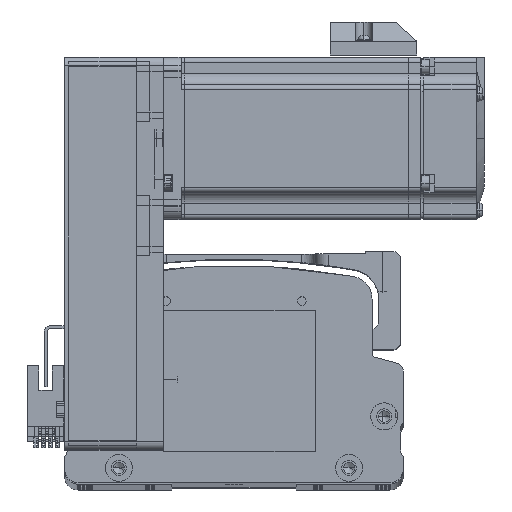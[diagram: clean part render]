
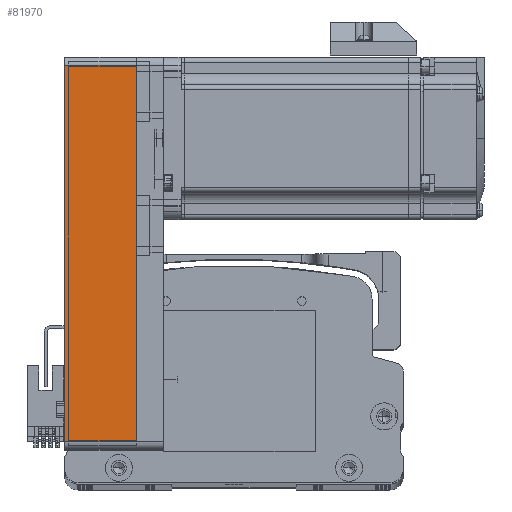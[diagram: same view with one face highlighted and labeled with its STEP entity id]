
A CAD part, top view. The second image highlights one B-rep face of the part: STEP entity #81970.
In plain terms, the highlighted planar face has unit normal (0, 0, 1) as drawn and (0, -1, 0) by its records, which use the part's own axes.
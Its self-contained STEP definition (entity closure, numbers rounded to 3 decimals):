
#1263 = AXIS2_PLACEMENT_3D ( 'NONE', #29959, #76206, #36614 ) ;
#4739 = ORIENTED_EDGE ( 'NONE', *, *, #52510, .T. ) ;
#4900 = VECTOR ( 'NONE', #33796, 1000. ) ;
#5481 = VERTEX_POINT ( 'NONE', #39003 ) ;
#8001 = DIRECTION ( 'NONE',  ( 1., 0., 0. ) ) ;
#10521 = CARTESIAN_POINT ( 'NONE',  ( 69.5, -30., 26.5 ) ) ;
#11372 = EDGE_LOOP ( 'NONE', ( #51397, #4739, #30117, #62168 ) ) ;
#12439 = LINE ( 'NONE', #64166, #80724 ) ;
#14379 = VERTEX_POINT ( 'NONE', #54191 ) ;
#16881 = VECTOR ( 'NONE', #67856, 1000. ) ;
#18940 = VERTEX_POINT ( 'NONE', #10521 ) ;
#20783 = CARTESIAN_POINT ( 'NONE',  ( 72.5, -30., 26.5 ) ) ;
#21589 = CARTESIAN_POINT ( 'NONE',  ( -69.5, -30., 26.5 ) ) ;
#29959 = CARTESIAN_POINT ( 'NONE',  ( 72.5, -30., 26.5 ) ) ;
#30117 = ORIENTED_EDGE ( 'NONE', *, *, #52741, .F. ) ;
#33796 = DIRECTION ( 'NONE',  ( 1., 0., 0. ) ) ;
#36331 = PLANE ( 'NONE',  #1263 ) ;
#36614 = DIRECTION ( 'NONE',  ( -1., 0., 0. ) ) ;
#37858 = DIRECTION ( 'NONE',  ( 0., 0., 1. ) ) ;
#39003 = CARTESIAN_POINT ( 'NONE',  ( -69.5, -30., 0. ) ) ;
#40968 = CARTESIAN_POINT ( 'NONE',  ( 72.5, -30., 0. ) ) ;
#44046 = FACE_OUTER_BOUND ( 'NONE', #11372, .T. ) ;
#49978 = LINE ( 'NONE', #21589, #16881 ) ;
#51397 = ORIENTED_EDGE ( 'NONE', *, *, #75634, .T. ) ;
#52510 = EDGE_CURVE ( 'NONE', #64766, #18940, #12439, .T. ) ;
#52741 = EDGE_CURVE ( 'NONE', #14379, #18940, #55640, .T. ) ;
#54191 = CARTESIAN_POINT ( 'NONE',  ( -69.5, -30., 26.5 ) ) ;
#55640 = LINE ( 'NONE', #20783, #4900 ) ;
#58602 = VECTOR ( 'NONE', #8001, 1000. ) ;
#62168 = ORIENTED_EDGE ( 'NONE', *, *, #66284, .T. ) ;
#64166 = CARTESIAN_POINT ( 'NONE',  ( 69.5, -30., 26.5 ) ) ;
#64766 = VERTEX_POINT ( 'NONE', #66614 ) ;
#66284 = EDGE_CURVE ( 'NONE', #14379, #5481, #49978, .T. ) ;
#66614 = CARTESIAN_POINT ( 'NONE',  ( 69.5, -30., 0. ) ) ;
#67856 = DIRECTION ( 'NONE',  ( 0., 0., -1. ) ) ;
#75634 = EDGE_CURVE ( 'NONE', #5481, #64766, #78248, .T. ) ;
#76206 = DIRECTION ( 'NONE',  ( 0., 1., 0. ) ) ;
#78248 = LINE ( 'NONE', #40968, #58602 ) ;
#80724 = VECTOR ( 'NONE', #37858, 1000. ) ;
#81970 = ADVANCED_FACE ( 'NONE', ( #44046 ), #36331, .F. ) ;
